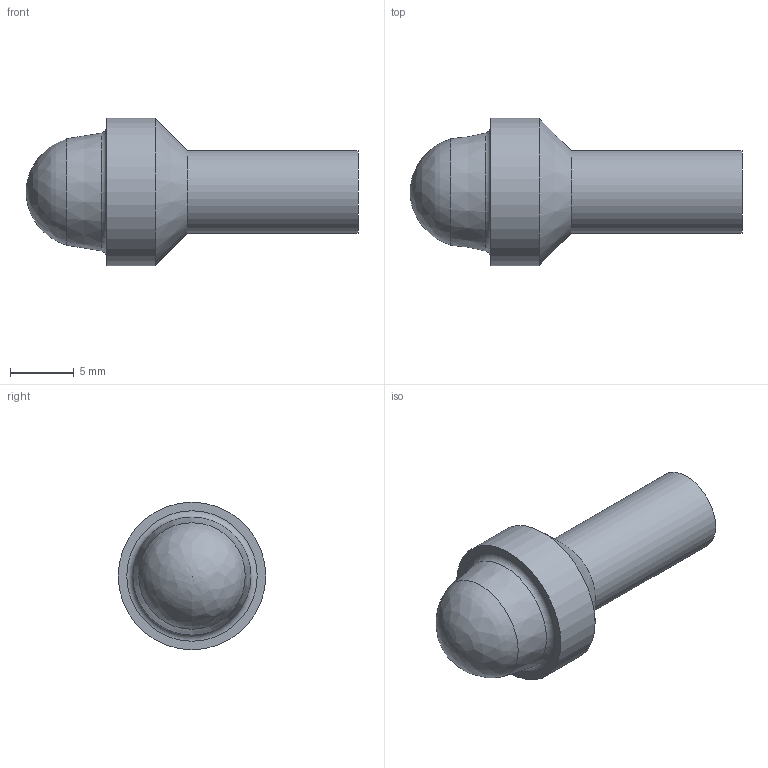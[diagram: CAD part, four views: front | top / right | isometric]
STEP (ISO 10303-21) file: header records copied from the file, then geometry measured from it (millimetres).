
FILE_DESCRIPTION(/* description */ (''),/* implementation_level */ '2;1');
FILE_NAME(/* name */ 'D:\~~GatCad\BWA - Ammo\BWA-Ammo V1.0\STEP\Case Mouth Tool.stp',/* time_stamp */ '2020-06-11T18:34:52-05:00',/* author */ ('johne'),/* organization */ (''),/* preprocessor_version */ 'ST-DEVELOPER v18',/* originating_system */ 'Autodesk Inventor 2020',/* authorisation */ '');
FILE_SCHEMA (('AUTOMOTIVE_DESIGN { 1 0 10303 214 3 1 1 }'));
Length unit declared in the file: inch
Products named in the file (1): Sizer
Bounding box: 26.09 x 11.59 x 11.59 mm (x, y, z)
Volume: 1315.4 mm3; surface area: 755.5 mm2
Topology: 1 solids, 1 shells, 8 faces, 21 edges, 15 vertices
Faces by surface type: plane 2, cone 2, cylinder 2, torus 1, bspline 1
Full cylindrical faces by diameter (mm): 6.512 x1, 11.592 x1
Entity records: 325 total; most frequent: CARTESIAN_POINT 70, DIRECTION 52, ORIENTED_EDGE 40, AXIS2_PLACEMENT_3D 24, EDGE_CURVE 20, CIRCLE 16, VERTEX_POINT 15, EDGE_LOOP 9
